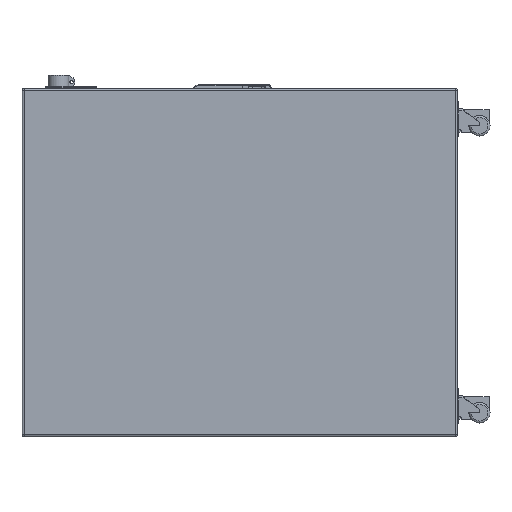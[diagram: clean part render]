
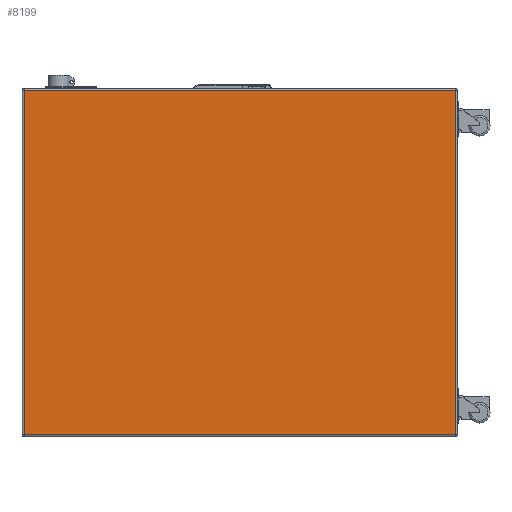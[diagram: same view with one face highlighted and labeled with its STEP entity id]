
A CAD part, left-side view. The second image highlights one B-rep face of the part: STEP entity #8199.
In plain terms, the highlighted planar face has unit normal (-1, 0, 0).
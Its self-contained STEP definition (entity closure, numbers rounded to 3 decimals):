
#181=PLANE('',#8895);
#472=LINE('',#12466,#1278);
#474=LINE('',#12469,#1280);
#475=LINE('',#12471,#1281);
#480=LINE('',#12478,#1286);
#1278=VECTOR('',#9852,10.);
#1280=VECTOR('',#9856,10.);
#1281=VECTOR('',#9859,10.);
#1286=VECTOR('',#9868,10.);
#2272=FACE_OUTER_BOUND('',#2757,.T.);
#2757=EDGE_LOOP('',(#5802,#5803,#5804,#5805));
#3658=VERTEX_POINT('',#12388);
#3663=VERTEX_POINT('',#12398);
#3668=VERTEX_POINT('',#12410);
#3671=VERTEX_POINT('',#12417);
#4503=EDGE_CURVE('',#3668,#3671,#472,.T.);
#4505=EDGE_CURVE('',#3671,#3663,#474,.T.);
#4506=EDGE_CURVE('',#3658,#3668,#475,.T.);
#4511=EDGE_CURVE('',#3663,#3658,#480,.T.);
#5802=ORIENTED_EDGE('',*,*,#4503,.F.);
#5803=ORIENTED_EDGE('',*,*,#4506,.F.);
#5804=ORIENTED_EDGE('',*,*,#4511,.F.);
#5805=ORIENTED_EDGE('',*,*,#4505,.F.);
#8199=ADVANCED_FACE('',(#2272),#181,.T.);
#8895=AXIS2_PLACEMENT_3D('',#12508,#9895,#9896);
#9852=DIRECTION('',(0.,-1.,0.));
#9856=DIRECTION('',(0.,0.,-1.));
#9859=DIRECTION('',(0.,0.,1.));
#9868=DIRECTION('',(0.,1.,0.));
#9895=DIRECTION('center_axis',(-1.,0.,0.));
#9896=DIRECTION('ref_axis',(0.,1.,0.));
#12388=CARTESIAN_POINT('',(-300.,520.5,-836.));
#12398=CARTESIAN_POINT('',(-300.,-520.5,-836.));
#12410=CARTESIAN_POINT('',(-300.,520.5,-5.));
#12417=CARTESIAN_POINT('',(-300.,-520.5,-5.));
#12466=CARTESIAN_POINT('',(-300.,-262.75,-5.));
#12469=CARTESIAN_POINT('',(-300.,-520.5,0.));
#12471=CARTESIAN_POINT('',(-300.,520.5,0.));
#12478=CARTESIAN_POINT('',(-300.,-262.75,-836.));
#12508=CARTESIAN_POINT('Origin',(-300.,-525.5,0.));
